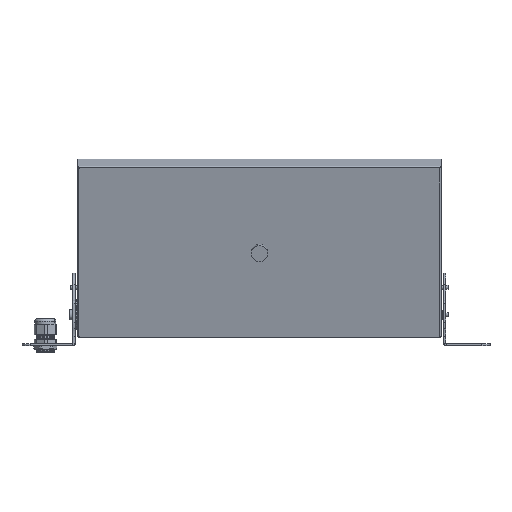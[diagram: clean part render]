
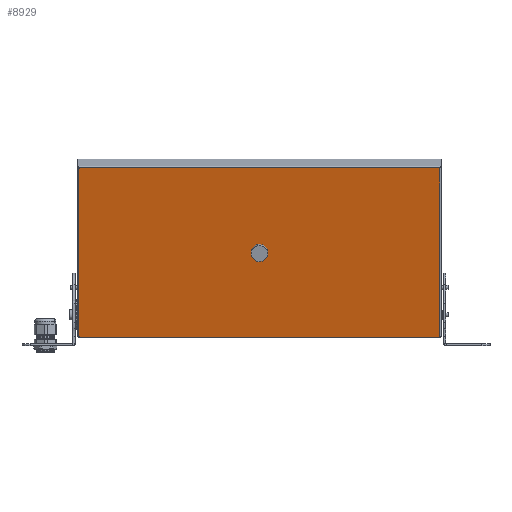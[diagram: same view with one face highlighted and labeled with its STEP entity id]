
A CAD part, front view. The second image highlights one B-rep face of the part: STEP entity #8929.
In plain terms, the highlighted planar face has unit normal (0, -0.974, -0.226) as drawn and (0, -0.99, 0.138) by its records, which use the part's own axes.
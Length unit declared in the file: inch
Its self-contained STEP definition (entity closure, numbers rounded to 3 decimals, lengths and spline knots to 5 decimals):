
#101 = CARTESIAN_POINT ( 'NONE',  ( -8.08, -2.11924, 0.39867 ) ) ;
#412 = EDGE_CURVE ( 'NONE', #2296, #8905, #11377, .T. ) ;
#598 = VECTOR ( 'NONE', #8304, 39.37008 ) ;
#909 = EDGE_CURVE ( 'NONE', #1390, #8720, #3431, .T. ) ;
#1007 = CARTESIAN_POINT ( 'NONE',  ( 0., -1.5851, 4.22775 ) ) ;
#1030 = CARTESIAN_POINT ( 'NONE',  ( 8.08, -2.12753, 0.33924 ) ) ;
#1054 = ORIENTED_EDGE ( 'NONE', *, *, #11384, .T. ) ;
#1097 = CARTESIAN_POINT ( 'NONE',  ( -8.14, -1.05095, 8.05684 ) ) ;
#1187 = VERTEX_POINT ( 'NONE', #12282 ) ;
#1390 = VERTEX_POINT ( 'NONE', #3282 ) ;
#1485 = DIRECTION ( 'NONE',  ( 0., -0.99, 0.138 ) ) ;
#1550 = AXIS2_PLACEMENT_3D ( 'NONE', #11288, #5337, #12306 ) ;
#1576 = EDGE_LOOP ( 'NONE', ( #6826, #2551 ) ) ;
#1997 = DIRECTION ( 'NONE',  ( 0., -0.138, -0.99 ) ) ;
#2247 = DIRECTION ( 'NONE',  ( 0., -0.99, 0.138 ) ) ;
#2296 = VERTEX_POINT ( 'NONE', #12246 ) ;
#2428 = VECTOR ( 'NONE', #7065, 39.37008 ) ;
#2551 = ORIENTED_EDGE ( 'NONE', *, *, #909, .F. ) ;
#2605 = CARTESIAN_POINT ( 'NONE',  ( -8.14, -2.11924, 0.39867 ) ) ;
#2722 = ORIENTED_EDGE ( 'NONE', *, *, #10106, .T. ) ;
#2977 = EDGE_LOOP ( 'NONE', ( #9026, #1054, #10189, #12337, #4882, #8510, #11367, #2722 ) ) ;
#3041 = CIRCLE ( 'NONE', #6315, 0.06 ) ;
#3071 = PLANE ( 'NONE',  #12476 ) ;
#3232 = LINE ( 'NONE', #5296, #598 ) ;
#3282 = CARTESIAN_POINT ( 'NONE',  ( 0., -1.63691, 3.85635 ) ) ;
#3431 = CIRCLE ( 'NONE', #5487, 0.375 ) ;
#3760 = CARTESIAN_POINT ( 'NONE',  ( 0., -1.53329, 4.59916 ) ) ;
#3924 = CARTESIAN_POINT ( 'NONE',  ( 8.14, -1.05095, 8.05684 ) ) ;
#4038 = CARTESIAN_POINT ( 'NONE',  ( -8.14, -2.11924, 0.39867 ) ) ;
#4187 = DIRECTION ( 'NONE',  ( 0., -0.138, -0.99 ) ) ;
#4303 = CARTESIAN_POINT ( 'NONE',  ( 0., -1.5851, 4.22775 ) ) ;
#4376 = DIRECTION ( 'NONE',  ( 0., -0.99, 0.138 ) ) ;
#4413 = EDGE_CURVE ( 'NONE', #5329, #10255, #7689, .T. ) ;
#4572 = VECTOR ( 'NONE', #11923, 39.37008 ) ;
#4595 = VECTOR ( 'NONE', #5036, 39.37008 ) ;
#4692 = CIRCLE ( 'NONE', #1550, 0.06 ) ;
#4882 = ORIENTED_EDGE ( 'NONE', *, *, #10935, .T. ) ;
#5036 = DIRECTION ( 'NONE',  ( 0., -0.138, -0.99 ) ) ;
#5058 = DIRECTION ( 'NONE',  ( 0., -0.99, 0.138 ) ) ;
#5296 = CARTESIAN_POINT ( 'NONE',  ( -8.08, -1.04266, 8.11626 ) ) ;
#5329 = VERTEX_POINT ( 'NONE', #10008 ) ;
#5337 = DIRECTION ( 'NONE',  ( 0., -0.99, 0.138 ) ) ;
#5398 = AXIS2_PLACEMENT_3D ( 'NONE', #11193, #11479, #11407 ) ;
#5485 = EDGE_CURVE ( 'NONE', #1187, #5329, #4692, .T. ) ;
#5487 = AXIS2_PLACEMENT_3D ( 'NONE', #4303, #4376, #4187 ) ;
#5696 = FACE_OUTER_BOUND ( 'NONE', #2977, .T. ) ;
#6292 = CIRCLE ( 'NONE', #12732, 0.06 ) ;
#6315 = AXIS2_PLACEMENT_3D ( 'NONE', #7423, #1485, #8423 ) ;
#6826 = ORIENTED_EDGE ( 'NONE', *, *, #9369, .F. ) ;
#7065 = DIRECTION ( 'NONE',  ( 0., 0.138, 0.99 ) ) ;
#7423 = CARTESIAN_POINT ( 'NONE',  ( 8.08, -1.05095, 8.05684 ) ) ;
#7540 = CARTESIAN_POINT ( 'NONE',  ( 8.08, -1.04266, 8.11626 ) ) ;
#7549 = LINE ( 'NONE', #1030, #4572 ) ;
#7689 = LINE ( 'NONE', #3924, #2428 ) ;
#7921 = VERTEX_POINT ( 'NONE', #7540 ) ;
#7946 = DIRECTION ( 'NONE',  ( 0., -0.99, 0.138 ) ) ;
#8188 = CARTESIAN_POINT ( 'NONE',  ( -8.08, -2.11924, 0.39867 ) ) ;
#8304 = DIRECTION ( 'NONE',  ( -1., 0., 0. ) ) ;
#8423 = DIRECTION ( 'NONE',  ( 0., -0.138, -0.99 ) ) ;
#8510 = ORIENTED_EDGE ( 'NONE', *, *, #12791, .T. ) ;
#8665 = FACE_BOUND ( 'NONE', #1576, .T. ) ;
#8720 = VERTEX_POINT ( 'NONE', #3760 ) ;
#8905 = VERTEX_POINT ( 'NONE', #1097 ) ;
#8929 = ADVANCED_FACE ( 'NONE', ( #8665, #5696 ), #3071, .T. ) ;
#9026 = ORIENTED_EDGE ( 'NONE', *, *, #11541, .T. ) ;
#9080 = VERTEX_POINT ( 'NONE', #2605 ) ;
#9171 = DIRECTION ( 'NONE',  ( 0., -0.138, -0.99 ) ) ;
#9262 = CARTESIAN_POINT ( 'NONE',  ( 8.14, -1.05095, 8.05684 ) ) ;
#9369 = EDGE_CURVE ( 'NONE', #8720, #1390, #10532, .T. ) ;
#10008 = CARTESIAN_POINT ( 'NONE',  ( 8.14, -2.11924, 0.39867 ) ) ;
#10106 = EDGE_CURVE ( 'NONE', #8905, #9080, #10209, .T. ) ;
#10189 = ORIENTED_EDGE ( 'NONE', *, *, #5485, .T. ) ;
#10209 = LINE ( 'NONE', #4038, #4595 ) ;
#10255 = VERTEX_POINT ( 'NONE', #9262 ) ;
#10532 = CIRCLE ( 'NONE', #10883, 0.375 ) ;
#10883 = AXIS2_PLACEMENT_3D ( 'NONE', #1007, #7946, #1997 ) ;
#10935 = EDGE_CURVE ( 'NONE', #10255, #7921, #3041, .T. ) ;
#10949 = CARTESIAN_POINT ( 'NONE',  ( -8.08, -2.12753, 0.33924 ) ) ;
#11193 = CARTESIAN_POINT ( 'NONE',  ( -8.08, -1.05095, 8.05684 ) ) ;
#11288 = CARTESIAN_POINT ( 'NONE',  ( 8.08, -2.11924, 0.39867 ) ) ;
#11367 = ORIENTED_EDGE ( 'NONE', *, *, #412, .T. ) ;
#11377 = CIRCLE ( 'NONE', #5398, 0.06 ) ;
#11384 = EDGE_CURVE ( 'NONE', #12592, #1187, #7549, .T. ) ;
#11407 = DIRECTION ( 'NONE',  ( 0., -0.138, -0.99 ) ) ;
#11479 = DIRECTION ( 'NONE',  ( 0., -0.99, 0.138 ) ) ;
#11541 = EDGE_CURVE ( 'NONE', #9080, #12592, #6292, .T. ) ;
#11923 = DIRECTION ( 'NONE',  ( 1., 0., 0. ) ) ;
#12031 = DIRECTION ( 'NONE',  ( 0., -0.138, -0.99 ) ) ;
#12246 = CARTESIAN_POINT ( 'NONE',  ( -8.08, -1.04266, 8.11626 ) ) ;
#12282 = CARTESIAN_POINT ( 'NONE',  ( 8.08, -2.12753, 0.33924 ) ) ;
#12306 = DIRECTION ( 'NONE',  ( 0., 0.138, 0.99 ) ) ;
#12337 = ORIENTED_EDGE ( 'NONE', *, *, #4413, .T. ) ;
#12476 = AXIS2_PLACEMENT_3D ( 'NONE', #101, #5058, #12031 ) ;
#12592 = VERTEX_POINT ( 'NONE', #10949 ) ;
#12732 = AXIS2_PLACEMENT_3D ( 'NONE', #8188, #2247, #9171 ) ;
#12791 = EDGE_CURVE ( 'NONE', #7921, #2296, #3232, .T. ) ;
